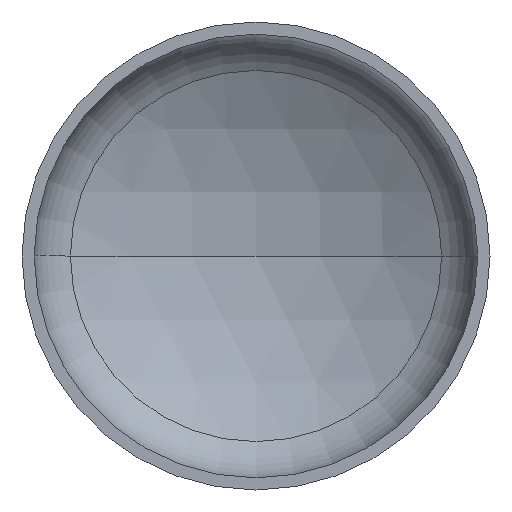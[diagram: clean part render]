
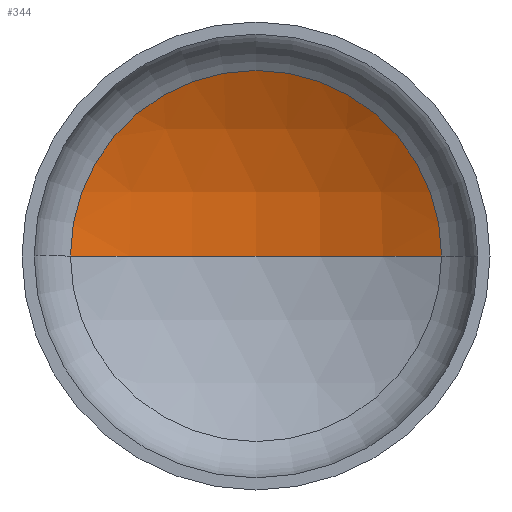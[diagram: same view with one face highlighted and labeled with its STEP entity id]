
A CAD part, front view. The second image highlights one B-rep face of the part: STEP entity #344.
In plain terms, the highlighted spherical face has radius 3200 mm.
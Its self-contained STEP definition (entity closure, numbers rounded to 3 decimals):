
#4 = AXIS2_PLACEMENT_3D ( 'NONE', #111, #157, #167 ) ;
#7 = AXIS2_PLACEMENT_3D ( 'NONE', #154, #366, #165 ) ;
#8 = AXIS2_PLACEMENT_3D ( 'NONE', #224, #387, #199 ) ;
#21 = EDGE_LOOP ( 'NONE', ( #405, #55, #119 ) ) ;
#25 = AXIS2_PLACEMENT_3D ( 'NONE', #169, #109, #114 ) ;
#35 = VERTEX_POINT ( 'NONE', #238 ) ;
#55 = ORIENTED_EDGE ( 'NONE', *, *, #338, .T. ) ;
#105 = VERTEX_POINT ( 'NONE', #192 ) ;
#109 = DIRECTION ( 'NONE',  ( 0., 0., 1. ) ) ;
#111 = CARTESIAN_POINT ( 'NONE',  ( 0., -2170.276, 0. ) ) ;
#114 = DIRECTION ( 'NONE',  ( 1., 0., 0. ) ) ;
#119 = ORIENTED_EDGE ( 'NONE', *, *, #334, .T. ) ;
#151 = VERTEX_POINT ( 'NONE', #358 ) ;
#154 = CARTESIAN_POINT ( 'NONE',  ( 0., -2170.276, 0. ) ) ;
#157 = DIRECTION ( 'NONE',  ( 0., 0., -1. ) ) ;
#165 = DIRECTION ( 'NONE',  ( -1., 0., 0. ) ) ;
#167 = DIRECTION ( 'NONE',  ( -1., 0., 0. ) ) ;
#169 = CARTESIAN_POINT ( 'NONE',  ( 0., -2170.276, 0. ) ) ;
#192 = CARTESIAN_POINT ( 'NONE',  ( 0., 1029.724, 0. ) ) ;
#199 = DIRECTION ( 'NONE',  ( 1., 0., 0. ) ) ;
#224 = CARTESIAN_POINT ( 'NONE',  ( 0., 609.176, 0. ) ) ;
#238 = CARTESIAN_POINT ( 'NONE',  ( 1585.764, 609.176, 0. ) ) ;
#272 = FACE_OUTER_BOUND ( 'NONE', #21, .T. ) ;
#280 = CIRCLE ( 'NONE', #7, 3200. ) ;
#315 = EDGE_CURVE ( 'NONE', #105, #151, #353, .T. ) ;
#334 = EDGE_CURVE ( 'NONE', #35, #151, #404, .T. ) ;
#338 = EDGE_CURVE ( 'NONE', #105, #35, #280, .T. ) ;
#342 = SPHERICAL_SURFACE ( 'NONE', #4, 3200. ) ;
#344 = ADVANCED_FACE ( 'NONE', ( #272 ), #342, .F. ) ;
#353 = CIRCLE ( 'NONE', #25, 3200. ) ;
#358 = CARTESIAN_POINT ( 'NONE',  ( -1585.764, 609.176, 0. ) ) ;
#366 = DIRECTION ( 'NONE',  ( 0., 0., -1. ) ) ;
#387 = DIRECTION ( 'NONE',  ( 0., -1., 0. ) ) ;
#404 = CIRCLE ( 'NONE', #8, 1585.764 ) ;
#405 = ORIENTED_EDGE ( 'NONE', *, *, #315, .F. ) ;
